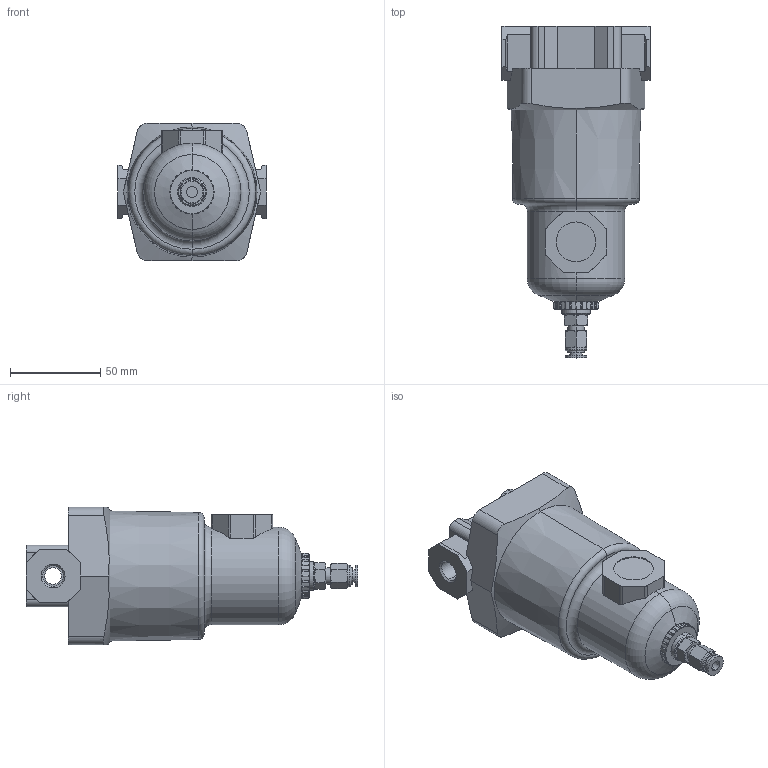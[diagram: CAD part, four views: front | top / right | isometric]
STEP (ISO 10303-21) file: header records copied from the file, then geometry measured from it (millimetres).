
FILE_DESCRIPTION (( 'STEP AP203' ), '1' );
FILE_NAME ('FSO250-02D.STEP', '2021-09-22T11:28:23', ( '' ), ( '' ), 'SwSTEP 2.0', 'SolidWorks 2019', '' );
FILE_SCHEMA (( 'CONFIG_CONTROL_DESIGN' ));
Length unit declared in the file: millimetre
Products named in the file (1): FSO250-02D
Bounding box: 82 x 183.7 x 76 mm (x, y, z)
Volume: 495044.4 mm3; surface area: 48078.4 mm2
Topology: 1 solids, 1 shells, 328 faces, 750 edges, 448 vertices
Faces by surface type: cylinder 127, cone 100, plane 93, torus 8
Entity records: 11853 total; most frequent: CARTESIAN_POINT 4474, DIRECTION 1550, ORIENTED_EDGE 1500, EDGE_CURVE 750, AXIS2_PLACEMENT_3D 610, VERTEX_POINT 448, EDGE_LOOP 354, VECTOR 330
